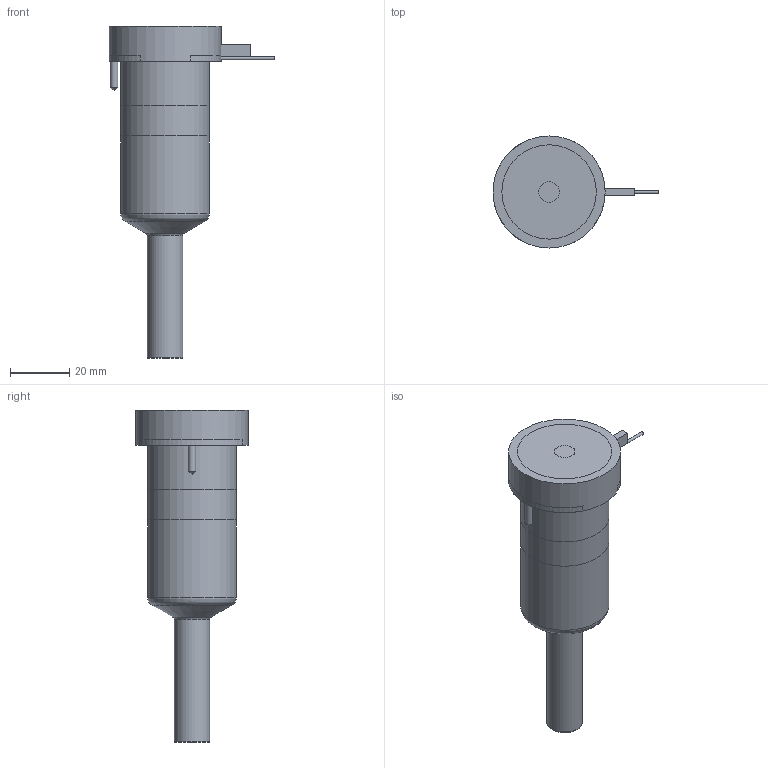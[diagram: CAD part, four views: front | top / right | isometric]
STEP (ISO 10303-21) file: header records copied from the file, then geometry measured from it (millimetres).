
FILE_DESCRIPTION(/* description */ (''),/* implementation_level */ '2;1');
FILE_NAME(/* name */ 'BXTSL-BXISL-BXOSL16065_250C_b',/* time_stamp */ '2008-04-29T14:05:57+12:00',/* author */ (''),/* organization */ (''),/* preprocessor_version */ 'ST-DEVELOPER v9',/* originating_system */ 'UGS - NX 4.0',/* authorisation */ '');
FILE_SCHEMA (('CONFIG_CONTROL_DESIGN'));
Length unit declared in the file: millimetre
Products named in the file (1): BXTSL-BXISL-BXOSL16065_250C_b
Bounding box: 56.25 x 38 x 112.53 mm (x, y, z)
Volume: 109926.6 mm3; surface area: 23515.9 mm2
Topology: 6 solids, 6 shells, 74 faces, 147 edges, 95 vertices
Faces by surface type: plane 35, cylinder 23, cone 8, torus 7, bspline 1
Full cylindrical faces by diameter (mm): 1 x4, 2.5 x2, 7 x1, 11.61 x1, 12.01 x2, 14.8 x1, 25.4 x1, 30 x2, 38 x1
Entity records: 1852 total; most frequent: CARTESIAN_POINT 368, DIRECTION 310, ORIENTED_EDGE 220, AXIS2_PLACEMENT_3D 136, EDGE_LOOP 112, EDGE_CURVE 110, VERTEX_POINT 87, ADVANCED_FACE 74
